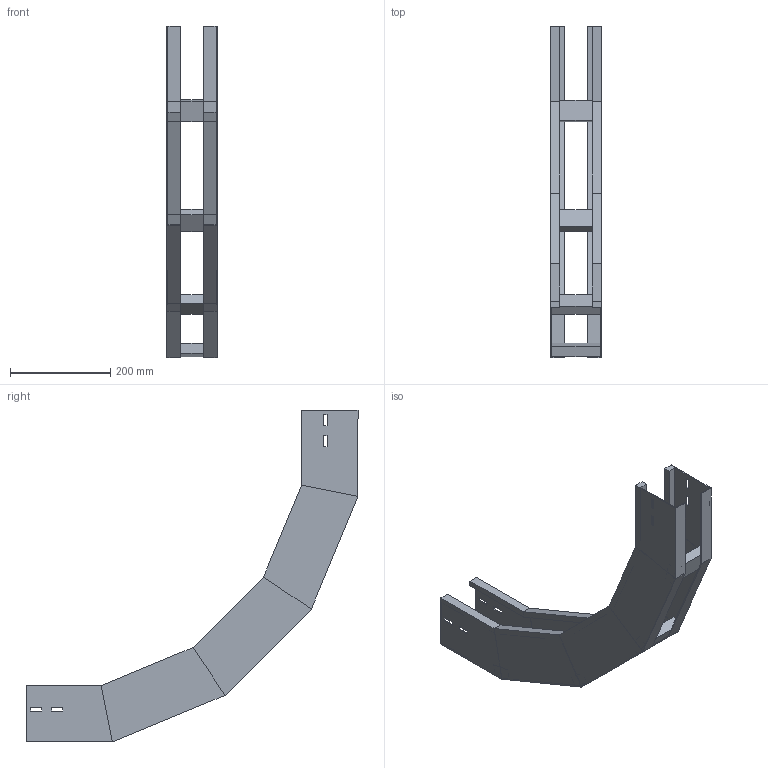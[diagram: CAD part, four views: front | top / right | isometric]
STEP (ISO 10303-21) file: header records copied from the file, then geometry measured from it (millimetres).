
FILE_DESCRIPTION (( 'STEP AP214' ), '1' );
FILE_NAME ('B2X30B5J100XX.step', '2025-03-20T10:23:10', ( '' ), ( '' ), 'SwSTEP 2.0', 'SolidWorks 2023', '' );
FILE_SCHEMA (( 'AUTOMOTIVE_DESIGN' ));
Length unit declared in the file: millimetre
Products named in the file (3): TRAVERSINO_100; LONGH.SALITA_90°_H112.5_R500; B2X30B5J100XX
Assembly tree (6 placements, depth 2):
  B2X30B5J100XX
    LONGH.SALITA_90°_H112.5_R500  x2
    TRAVERSINO_100  x4
Bounding box: 100 x 661.62 x 661.62 mm (x, y, z)
Volume: 1205708.4 mm3; surface area: 668991.7 mm2
Topology: 6 solids, 6 shells, 140 faces, 320 edges, 192 vertices
Faces by surface type: plane 140
Entity records: 1872 total; most frequent: CARTESIAN_POINT 309, ORIENTED_EDGE 296, DIRECTION 294, VECTOR 148, EDGE_CURVE 148, LINE 148, VERTEX_POINT 88, AXIS2_PLACEMENT_3D 73
